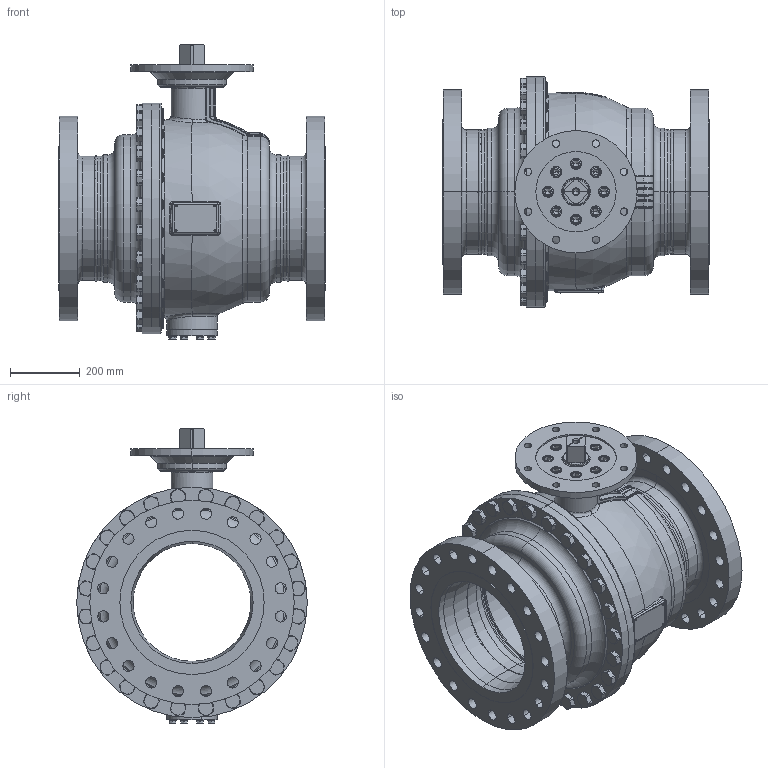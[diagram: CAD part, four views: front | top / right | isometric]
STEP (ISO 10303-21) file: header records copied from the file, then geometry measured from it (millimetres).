
FILE_DESCRIPTION((''),'2;1');
FILE_NAME('KHI-F_350_CL300-F30-4_SW0001','2026-02-05T15:54:23',('fischerkl'),('KLINGER'),'CREO PARAMETRIC BY PTC INC, 2023014','CREO PARAMETRIC BY PTC INC, 2023014','');
FILE_SCHEMA(('CONFIG_CONTROL_DESIGN'));
Products named in the file (1): KHI-F_350_CL300-F30-4_SW0001
Bounding box: 762 x 660 x 842.8 mm (x, y, z)
Volume: 53514232.8 mm3; surface area: 6515437 mm2
Topology: 1 solids, 4 shells, 3425 faces, 8643 edges, 5394 vertices
Faces by surface type: plane 1734, cylinder 813, cone 454, torus 295, bspline 99, sphere 30
Entity records: 144468 total; most frequent: CARTESIAN_POINT 62742, ORIENTED_EDGE 17234, DIRECTION 16953, EDGE_CURVE 8617, AXIS2_PLACEMENT_3D 6471, VERTEX_POINT 5394, VECTOR 4011, LINE 4011
